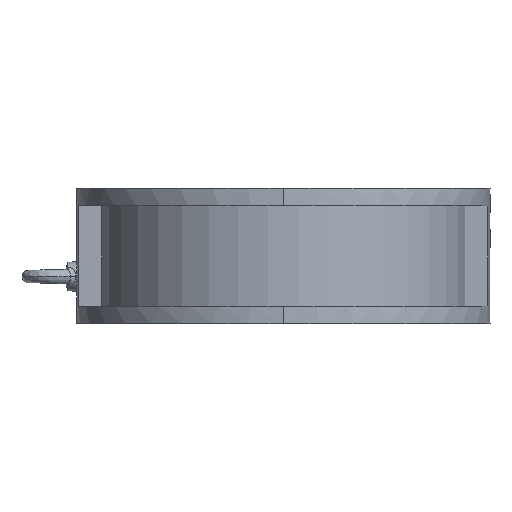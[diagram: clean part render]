
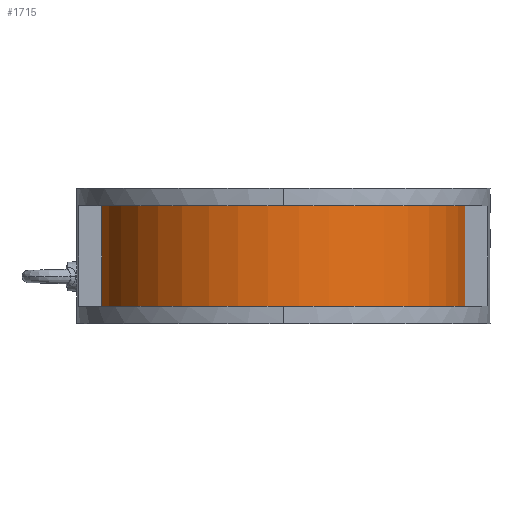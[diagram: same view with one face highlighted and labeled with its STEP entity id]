
A CAD part, left-side view. The second image highlights one B-rep face of the part: STEP entity #1715.
In plain terms, the highlighted cylindrical face has radius 121 mm (diameter 242 mm), a partial arc.
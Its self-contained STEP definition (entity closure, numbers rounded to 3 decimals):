
#365=CARTESIAN_POINT('',(0.,0.,33.));
#366=DIRECTION('',(0.,0.,1.));
#367=DIRECTION('',(-0.157,0.988,0.));
#368=AXIS2_PLACEMENT_3D('',#365,#366,#367);
#370=DIRECTION('',(0.,0.,1.));
#371=VECTOR('',#370,66.);
#372=CARTESIAN_POINT('',(-19.,-119.499,-33.));
#373=LINE('',#372,#371);
#374=CARTESIAN_POINT('',(0.,0.,-33.));
#375=DIRECTION('',(0.,0.,-1.));
#376=DIRECTION('',(-0.157,-0.988,0.));
#377=AXIS2_PLACEMENT_3D('',#374,#375,#376);
#379=DIRECTION('',(0.,0.,1.));
#380=VECTOR('',#379,66.);
#381=CARTESIAN_POINT('',(-19.,119.499,-33.));
#382=LINE('',#381,#380);
#1179=CARTESIAN_POINT('',(-19.,119.499,-33.));
#1181=VERTEX_POINT('',#1179);
#1182=CARTESIAN_POINT('',(-19.,-119.499,-33.));
#1184=VERTEX_POINT('',#1182);
#1192=CARTESIAN_POINT('',(-19.,119.499,33.));
#1193=VERTEX_POINT('',#1192);
#1198=CARTESIAN_POINT('',(-19.,-119.499,33.));
#1200=VERTEX_POINT('',#1198);
#1703=CARTESIAN_POINT('',(0.,0.,-36.3));
#1704=DIRECTION('',(0.,0.,1.));
#1705=DIRECTION('',(-1.,0.,0.));
#1706=AXIS2_PLACEMENT_3D('',#1703,#1704,#1705);
#1707=CYLINDRICAL_SURFACE('',#1706,121.);
#1708=ORIENTED_EDGE('',*,*,#1685,.T.);
#1710=ORIENTED_EDGE('',*,*,#1709,.F.);
#1711=ORIENTED_EDGE('',*,*,#1606,.T.);
#1712=ORIENTED_EDGE('',*,*,#1654,.T.);
#1713=EDGE_LOOP('',(#1708,#1710,#1711,#1712));
#1714=FACE_OUTER_BOUND('',#1713,.F.);
#1715=ADVANCED_FACE('',(#1714),#1707,.T.);
#369=CIRCLE('',#368,121.);
#378=CIRCLE('',#377,121.);
#1606=EDGE_CURVE('',#1184,#1181,#378,.T.);
#1654=EDGE_CURVE('',#1181,#1193,#382,.T.);
#1685=EDGE_CURVE('',#1193,#1200,#369,.T.);
#1709=EDGE_CURVE('',#1184,#1200,#373,.T.);
